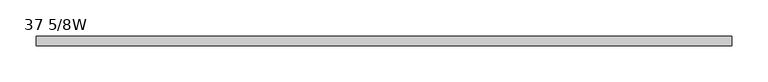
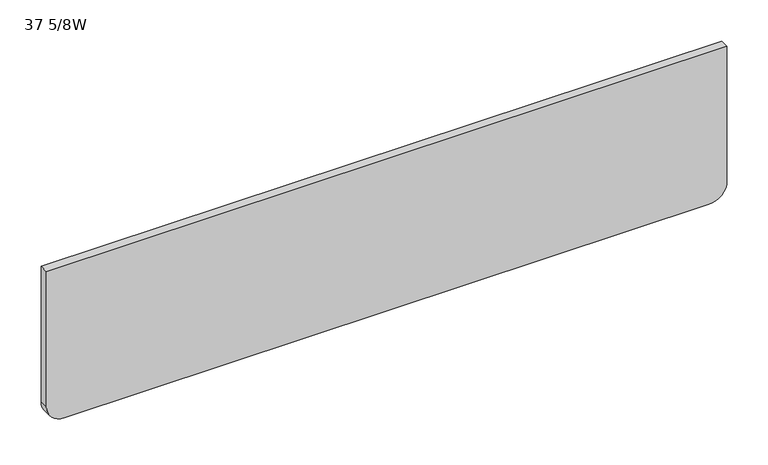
"""IFC4 building model written with IfcOpenShell, lengths in millimetres: furniture geometry, Steelcase - Groupwork - Table Component - Modesty Panel : 37 5/8W."""

from ifc_helpers import new_model, si_unit, point, frame, frame_2d, origin, place, context, project, spatial, polyline, circle_curve, trimmed, segment, composite_curve, outline, extrude, source, transform, mapped, element, save


def furniture_37_5_8w_fdee5de8(model_context):
    return source(origin(), model_context, "Body", "SweptSolid", [
        extrude(outline(composite_curve([segment(polyline([(497.8399855, 1355.9116774), (698.5000242, 1355.9116774), (698.5000242, 399.6016774), (497.8399855, 399.6016774)]), True, "CONTINUOUS"), segment(trimmed(circle_curve(frame_2d((497.8399855, 425.0016774)), 25.4), [point((497.8399855, 399.6016774))], [point((472.4399855, 425.0016774))], False, "CARTESIAN"), True, "CONTINUOUS"), segment(polyline([(472.4399855, 425.0016774), (472.4399855, 1330.5116774)]), True, "CONTINUOUS"), segment(trimmed(circle_curve(frame_2d((497.8399855, 1330.5116774)), 25.4), [point((472.4399855, 1330.5116774))], [point((497.8399855, 1355.9116774))], False, "CARTESIAN"), True, "CONTINUOUS")], self_intersect=False)), frame((0.0, -585.8617631, 0.0), z_axis=(0.0, 1.0, 0.0), x_axis=(0.0, 0.0, 1.0)), (0.0, 0.0, 1.0), 12.7),
    ])


if __name__ == "__main__":
    model = new_model("IFC4")
    model_context = context("Model", 3, world=origin())
    ifc_project = project(units=[si_unit("LENGTHUNIT", "METRE", prefix="MILLI")], contexts=[model_context])
    site = spatial("IfcSite", under=ifc_project)
    building = spatial("IfcBuilding", under=site)
    placement = place(None, origin())
    furniture_37_5_8w_shape = furniture_37_5_8w_fdee5de8(model_context)
    element("IfcFurniture", 1, ObjectType="Steelcase - Groupwork - Table Component - Modesty Panel : 37 5/8W", at=placement, inside=building, context=model_context, shape_type="MappedRepresentation", body=[
        mapped(furniture_37_5_8w_shape, transform((0.0, 0.0, 0.0), x_axis=(1.0, 0.0, 0.0), y_axis=(0.0, 1.0, 0.0), z_axis=(0.0, 0.0, 1.0))),
    ])
    save(model, "model.ifc")
